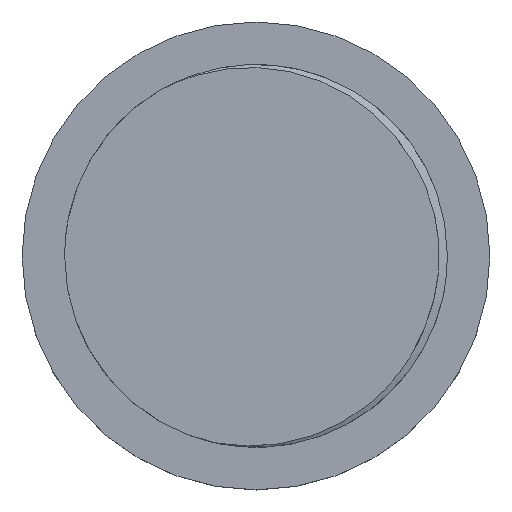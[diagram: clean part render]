
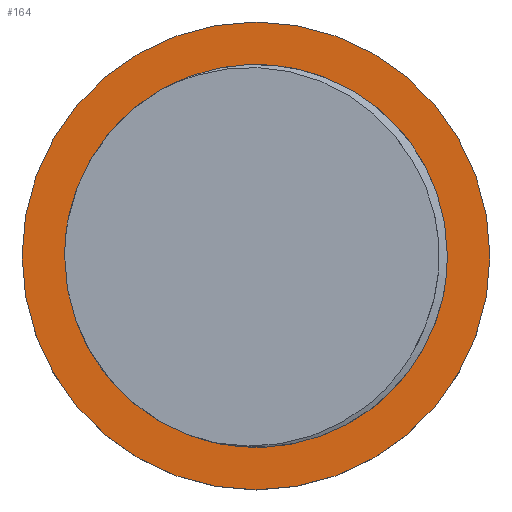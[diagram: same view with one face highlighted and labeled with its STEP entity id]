
A CAD part, top view. The second image highlights one B-rep face of the part: STEP entity #164.
In plain terms, the highlighted planar face has unit normal (0, 0, 1).
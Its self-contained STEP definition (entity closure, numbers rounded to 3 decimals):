
#18 = FACE_BOUND ( 'NONE', #175, .T. ) ;
#44 = DIRECTION ( 'NONE',  ( -1., 0., 0. ) ) ;
#50 = VERTEX_POINT ( 'NONE', #186 ) ;
#53 = ORIENTED_EDGE ( 'NONE', *, *, #266, .F. ) ;
#58 = VERTEX_POINT ( 'NONE', #332 ) ;
#62 = CARTESIAN_POINT ( 'NONE',  ( 0., 0., 0. ) ) ;
#63 = ORIENTED_EDGE ( 'NONE', *, *, #411, .F. ) ;
#72 = VERTEX_POINT ( 'NONE', #76 ) ;
#76 = CARTESIAN_POINT ( 'NONE',  ( -16.5, 0., 0. ) ) ;
#77 = AXIS2_PLACEMENT_3D ( 'NONE', #202, #555, #404 ) ;
#110 = DIRECTION ( 'NONE',  ( 0., 0., -1. ) ) ;
#125 = EDGE_CURVE ( 'NONE', #58, #282, #619, .T. ) ;
#131 = AXIS2_PLACEMENT_3D ( 'NONE', #279, #510, #512 ) ;
#135 = CARTESIAN_POINT ( 'NONE',  ( 0., 0., 0. ) ) ;
#164 = ADVANCED_FACE ( 'NONE', ( #18, #419 ), #409, .F. ) ;
#175 = EDGE_LOOP ( 'NONE', ( #312, #53 ) ) ;
#186 = CARTESIAN_POINT ( 'NONE',  ( 16.5, 0., 0. ) ) ;
#202 = CARTESIAN_POINT ( 'NONE',  ( 0., 0., 0. ) ) ;
#238 = CIRCLE ( 'NONE', #503, 16.5 ) ;
#262 = AXIS2_PLACEMENT_3D ( 'NONE', #135, #296, #335 ) ;
#266 = EDGE_CURVE ( 'NONE', #282, #58, #536, .T. ) ;
#276 = CARTESIAN_POINT ( 'NONE',  ( -13.5, 0., 0. ) ) ;
#279 = CARTESIAN_POINT ( 'NONE',  ( 0., 0., 0. ) ) ;
#282 = VERTEX_POINT ( 'NONE', #276 ) ;
#296 = DIRECTION ( 'NONE',  ( 0., 0., 1. ) ) ;
#312 = ORIENTED_EDGE ( 'NONE', *, *, #125, .F. ) ;
#322 = EDGE_LOOP ( 'NONE', ( #623, #63 ) ) ;
#330 = CIRCLE ( 'NONE', #77, 16.5 ) ;
#332 = CARTESIAN_POINT ( 'NONE',  ( 13.5, 0., 0. ) ) ;
#335 = DIRECTION ( 'NONE',  ( 1., 0., 0. ) ) ;
#404 = DIRECTION ( 'NONE',  ( -1., 0., 0. ) ) ;
#409 = PLANE ( 'NONE',  #437 ) ;
#411 = EDGE_CURVE ( 'NONE', #72, #50, #330, .T. ) ;
#419 = FACE_OUTER_BOUND ( 'NONE', #322, .T. ) ;
#428 = EDGE_CURVE ( 'NONE', #50, #72, #238, .T. ) ;
#437 = AXIS2_PLACEMENT_3D ( 'NONE', #62, #110, #457 ) ;
#448 = DIRECTION ( 'NONE',  ( 0., 0., -1. ) ) ;
#457 = DIRECTION ( 'NONE',  ( -1., 0., 0. ) ) ;
#503 = AXIS2_PLACEMENT_3D ( 'NONE', #600, #448, #44 ) ;
#510 = DIRECTION ( 'NONE',  ( 0., 0., 1. ) ) ;
#512 = DIRECTION ( 'NONE',  ( 1., 0., 0. ) ) ;
#536 = CIRCLE ( 'NONE', #131, 13.5 ) ;
#555 = DIRECTION ( 'NONE',  ( 0., 0., -1. ) ) ;
#600 = CARTESIAN_POINT ( 'NONE',  ( 0., 0., 0. ) ) ;
#619 = CIRCLE ( 'NONE', #262, 13.5 ) ;
#623 = ORIENTED_EDGE ( 'NONE', *, *, #428, .F. ) ;
